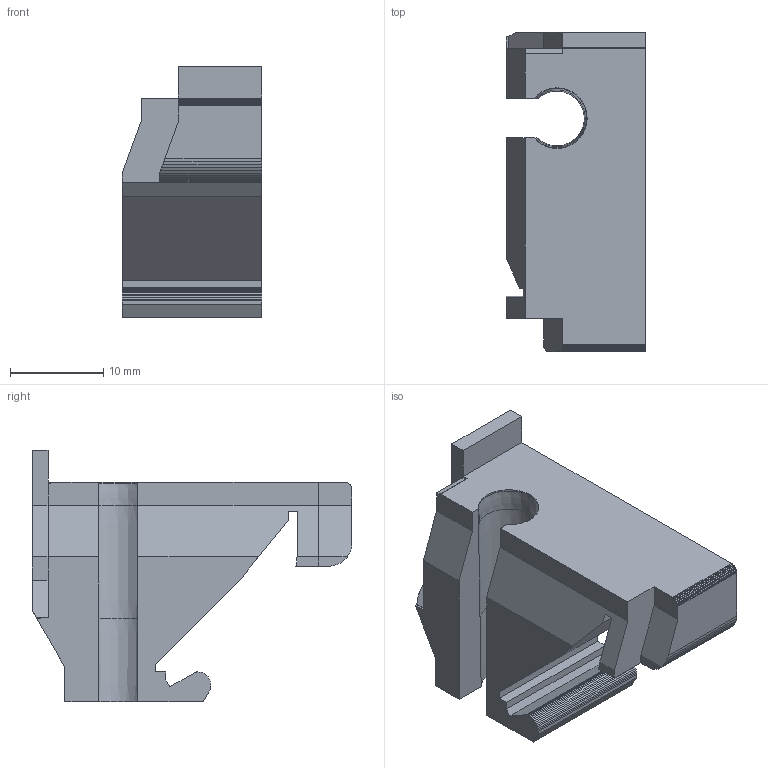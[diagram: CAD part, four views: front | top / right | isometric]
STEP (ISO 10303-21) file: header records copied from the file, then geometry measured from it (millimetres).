
FILE_DESCRIPTION(('Open CASCADE Model'),'2;1');
FILE_NAME('Open CASCADE Shape Model','2026-10-27T10:19:42',('Author'),( 'Open CASCADE'),'Open CASCADE STEP processor 8.0','build123d', 'Unknown');
FILE_SCHEMA(('AUTOMOTIVE_DESIGN { 1 0 10303 214 1 1 1 1 }'));
Length unit declared in the file: millimetre
Products named in the file (1): SOLID
Bounding box: 14.9 x 34.2 x 26.9 mm (x, y, z)
Volume: 6448.7 mm3; surface area: 3208.1 mm2
Topology: 1 solids, 1 shells, 97 faces, 284 edges, 189 vertices
Faces by surface type: plane 93, cone 3, cylinder 1
Entity records: 6585 total; most frequent: CARTESIAN_POINT 1832, DIRECTION 571, ORIENTED_EDGE 568, PCURVE 568, DEFINITIONAL_REPRESENTATION 568, B_SPLINE_CURVE_WITH_KNOTS 481, LINE 364, VECTOR 364
